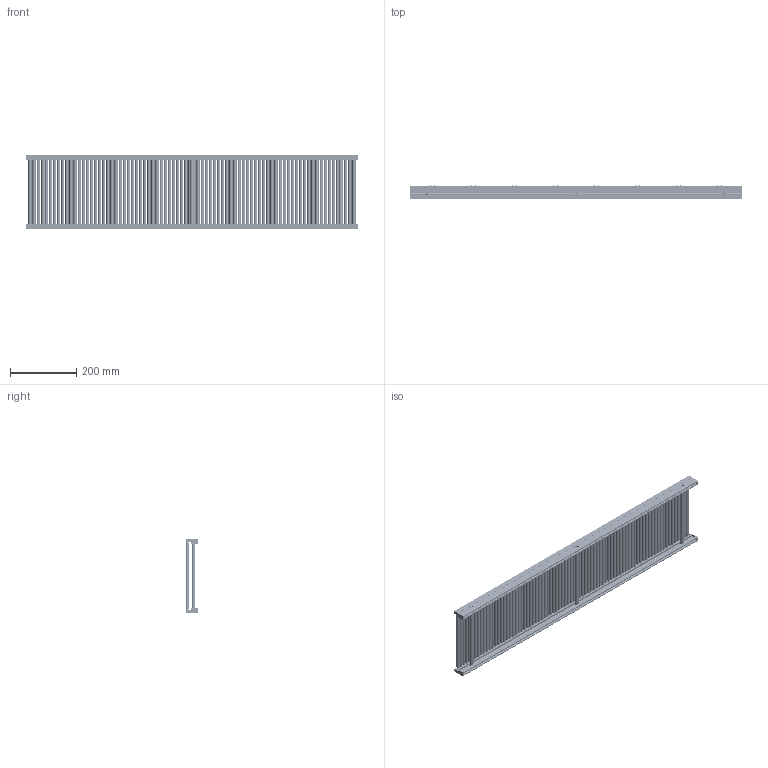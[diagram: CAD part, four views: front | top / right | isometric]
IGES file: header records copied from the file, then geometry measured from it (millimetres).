
Start section: SolidWorks IGES file using analytic representation for surfaces
Global section: file name: \\3D-LS520\Public\DATA\ホームページデータ\グラビティ\組図\RS-1010.IGS; native system: SolidWorks 2023; preprocessor: SolidWorks 2023; author: 0656; date: 260702.173159; units: millimetre
Bounding box: 1004 x 39 x 223 mm (x, y, z)
Surface area: 1622793.8 mm2 (no closed solid volume)
Topology: 0 solids, 0 shells, 2960 faces, 44108 edges, 44096 vertices
Faces by surface type: bspline 1886, revolution 1074
